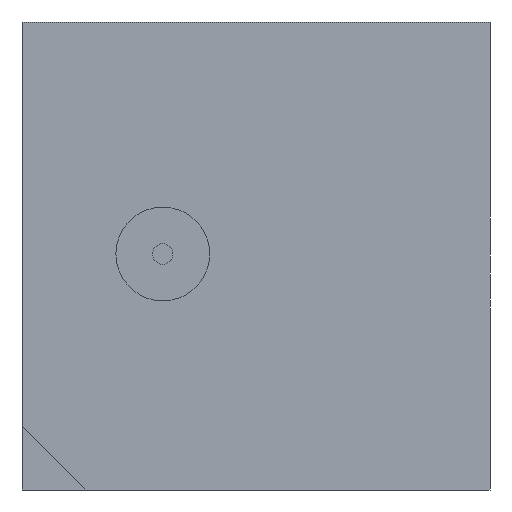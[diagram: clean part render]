
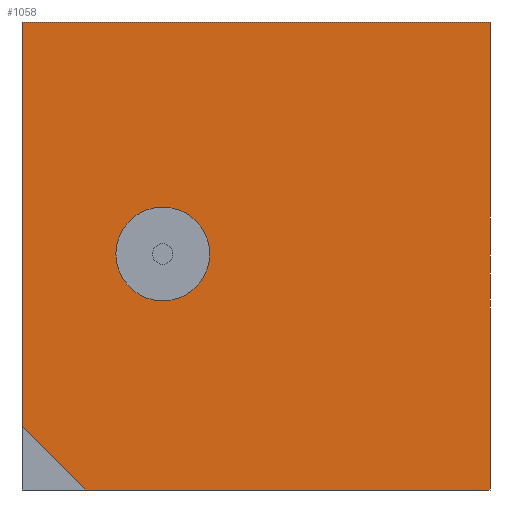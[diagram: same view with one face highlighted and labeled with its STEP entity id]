
A CAD part, left-side view. The second image highlights one B-rep face of the part: STEP entity #1058.
In plain terms, the highlighted planar face has unit normal (-1, 0, 0).
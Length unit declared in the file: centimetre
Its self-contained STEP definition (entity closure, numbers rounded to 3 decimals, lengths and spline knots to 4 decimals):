
#69 = EDGE_LOOP ( 'NONE', ( #1062, #132 ) ) ;
#95 = CARTESIAN_POINT ( 'NONE',  ( 0., 1000., 1000. ) ) ;
#132 = ORIENTED_EDGE ( 'NONE', *, *, #1642, .F. ) ;
#215 = VECTOR ( 'NONE', #1413, 100. ) ;
#230 = CARTESIAN_POINT ( 'NONE',  ( 0., 1000., 1000. ) ) ;
#232 = AXIS2_PLACEMENT_3D ( 'NONE', #581, #1121, #556 ) ;
#265 = EDGE_CURVE ( 'NONE', #329, #266, #1686, .T. ) ;
#266 = VERTEX_POINT ( 'NONE', #1614 ) ;
#273 = LINE ( 'NONE', #391, #685 ) ;
#279 = VECTOR ( 'NONE', #350, 100. ) ;
#329 = VERTEX_POINT ( 'NONE', #1379 ) ;
#346 = ORIENTED_EDGE ( 'NONE', *, *, #731, .F. ) ;
#350 = DIRECTION ( 'NONE',  ( 0., -1., 0. ) ) ;
#387 = ORIENTED_EDGE ( 'NONE', *, *, #1182, .T. ) ;
#391 = CARTESIAN_POINT ( 'NONE',  ( 0., 0., 1000. ) ) ;
#476 = ORIENTED_EDGE ( 'NONE', *, *, #1473, .F. ) ;
#477 = PLANE ( 'NONE',  #670 ) ;
#490 = LINE ( 'NONE', #1032, #1701 ) ;
#500 = CARTESIAN_POINT ( 'NONE',  ( 0., 864.7952, 0. ) ) ;
#556 = DIRECTION ( 'NONE',  ( 0., 0., 1. ) ) ;
#573 = CARTESIAN_POINT ( 'NONE',  ( 0., 0., 1000. ) ) ;
#581 = CARTESIAN_POINT ( 'NONE',  ( 0., 699.2155, 504.3513 ) ) ;
#588 = AXIS2_PLACEMENT_3D ( 'NONE', #1613, #662, #916 ) ;
#632 = DIRECTION ( 'NONE',  ( 0., -1., 0. ) ) ;
#634 = ORIENTED_EDGE ( 'NONE', *, *, #1463, .T. ) ;
#662 = DIRECTION ( 'NONE',  ( -1., 0., 0. ) ) ;
#670 = AXIS2_PLACEMENT_3D ( 'NONE', #865, #1662, #1262 ) ;
#685 = VECTOR ( 'NONE', #1080, 100. ) ;
#691 = CARTESIAN_POINT ( 'NONE',  ( 0., 1000., 1000. ) ) ;
#731 = EDGE_CURVE ( 'NONE', #1302, #1093, #273, .T. ) ;
#865 = CARTESIAN_POINT ( 'NONE',  ( 0., 1000., 1000. ) ) ;
#889 = VERTEX_POINT ( 'NONE', #1381 ) ;
#897 = LINE ( 'NONE', #95, #1643 ) ;
#916 = DIRECTION ( 'NONE',  ( 0., 0., 1. ) ) ;
#986 = ORIENTED_EDGE ( 'NONE', *, *, #1482, .F. ) ;
#1032 = CARTESIAN_POINT ( 'NONE',  ( 0., 864.7952, 0. ) ) ;
#1058 = ADVANCED_FACE ( 'NONE', ( #1526, #1397 ), #477, .F. ) ;
#1062 = ORIENTED_EDGE ( 'NONE', *, *, #265, .F. ) ;
#1080 = DIRECTION ( 'NONE',  ( 0., 0., -1. ) ) ;
#1093 = VERTEX_POINT ( 'NONE', #1679 ) ;
#1121 = DIRECTION ( 'NONE',  ( -1., 0., 0. ) ) ;
#1182 = EDGE_CURVE ( 'NONE', #1484, #1093, #1282, .T. ) ;
#1262 = DIRECTION ( 'NONE',  ( 0., 0., -1. ) ) ;
#1282 = LINE ( 'NONE', #1304, #279 ) ;
#1302 = VERTEX_POINT ( 'NONE', #573 ) ;
#1304 = CARTESIAN_POINT ( 'NONE',  ( 0., 1000., 0. ) ) ;
#1341 = CIRCLE ( 'NONE', #588, 100.1673 ) ;
#1361 = VERTEX_POINT ( 'NONE', #691 ) ;
#1379 = CARTESIAN_POINT ( 'NONE',  ( 0., 699.2155, 604.5186 ) ) ;
#1381 = CARTESIAN_POINT ( 'NONE',  ( 0., 1000., 135.2048 ) ) ;
#1397 = FACE_OUTER_BOUND ( 'NONE', #1483, .T. ) ;
#1413 = DIRECTION ( 'NONE',  ( 0., 0., -1. ) ) ;
#1463 = EDGE_CURVE ( 'NONE', #1361, #889, #1692, .T. ) ;
#1473 = EDGE_CURVE ( 'NONE', #1484, #889, #490, .T. ) ;
#1482 = EDGE_CURVE ( 'NONE', #1361, #1302, #897, .T. ) ;
#1483 = EDGE_LOOP ( 'NONE', ( #634, #476, #387, #346, #986 ) ) ;
#1484 = VERTEX_POINT ( 'NONE', #500 ) ;
#1526 = FACE_BOUND ( 'NONE', #69, .T. ) ;
#1556 = DIRECTION ( 'NONE',  ( 0., 0.707, 0.707 ) ) ;
#1613 = CARTESIAN_POINT ( 'NONE',  ( 0., 699.2155, 504.3513 ) ) ;
#1614 = CARTESIAN_POINT ( 'NONE',  ( 0., 699.2155, 404.184 ) ) ;
#1642 = EDGE_CURVE ( 'NONE', #266, #329, #1341, .T. ) ;
#1643 = VECTOR ( 'NONE', #632, 100. ) ;
#1662 = DIRECTION ( 'NONE',  ( 1., 0., 0. ) ) ;
#1679 = CARTESIAN_POINT ( 'NONE',  ( 0., 0., 0. ) ) ;
#1686 = CIRCLE ( 'NONE', #232, 100.1673 ) ;
#1692 = LINE ( 'NONE', #230, #215 ) ;
#1701 = VECTOR ( 'NONE', #1556, 100. ) ;
